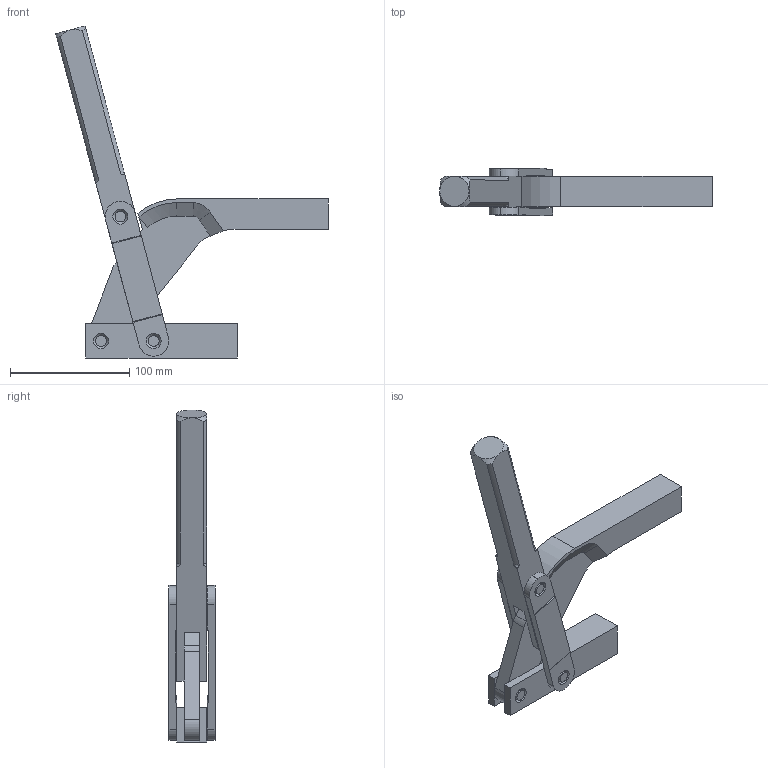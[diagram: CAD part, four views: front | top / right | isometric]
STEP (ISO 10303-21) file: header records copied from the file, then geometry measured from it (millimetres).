
FILE_DESCRIPTION(/* description */ (''),/* implementation_level */ '2;1');
FILE_NAME(/* name */ 'c115-3-3',/* time_stamp */ '2002-06-20T09:21:43-05:00',/* author */ (''),/* organization */ (''),/* preprocessor_version */ 'ST-DEVELOPER v8',/* originating_system */ 'UNIGRAPHICS SOLUTIONS - UNIGRAPHICS 18.0',/* authorisation */ '');
FILE_SCHEMA (('CONFIG_CONTROL_DESIGN'));
Length unit declared in the file: inch
Products named in the file (1): gues107A0003
Bounding box: 228.43 x 39.62 x 278.37 mm (x, y, z)
Volume: 388702 mm3; surface area: 90867.9 mm2
Topology: 10 solids, 10 shells, 131 faces, 319 edges, 208 vertices
Faces by surface type: plane 77, cylinder 34, cone 16, torus 4
Full cylindrical faces by diameter (mm): 9.042 x5, 9.55 x8, 12.649 x4
Entity records: 3875 total; most frequent: CARTESIAN_POINT 757, DIRECTION 621, ORIENTED_EDGE 580, EDGE_CURVE 290, AXIS2_PLACEMENT_3D 220, VERTEX_POINT 204, LINE 181, VECTOR 181
